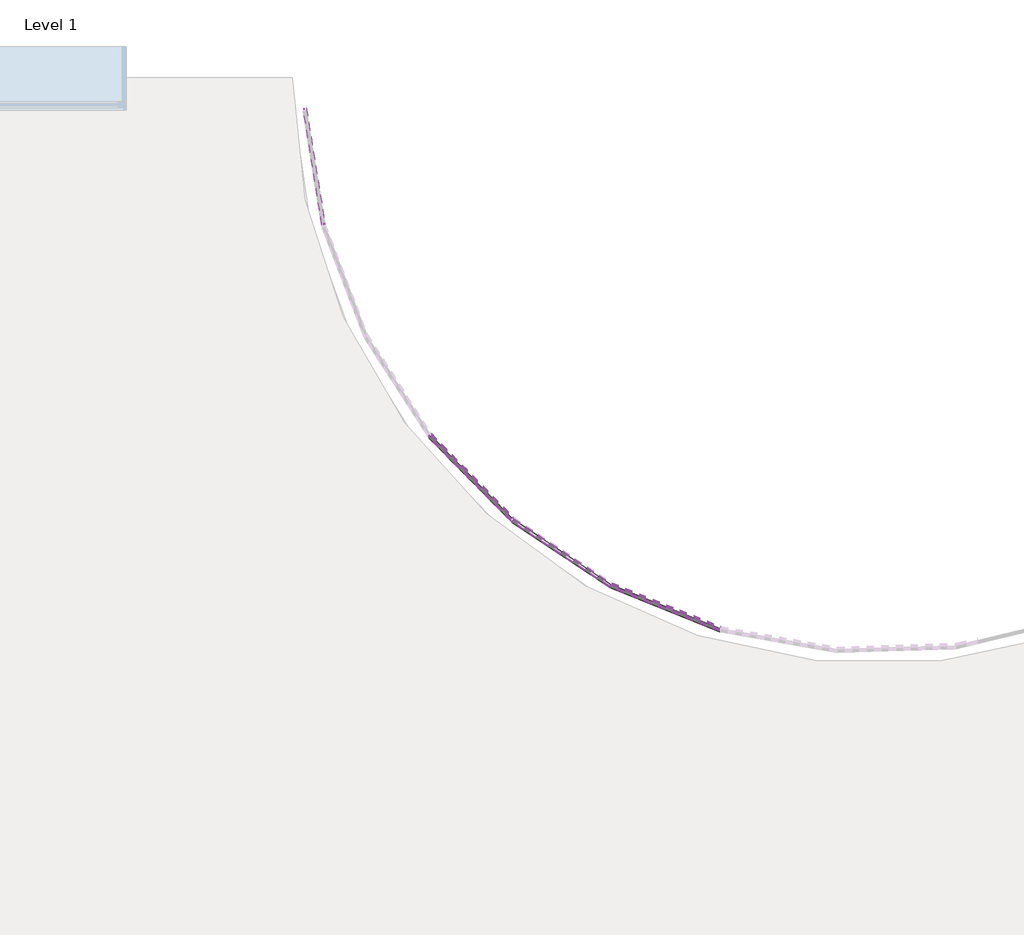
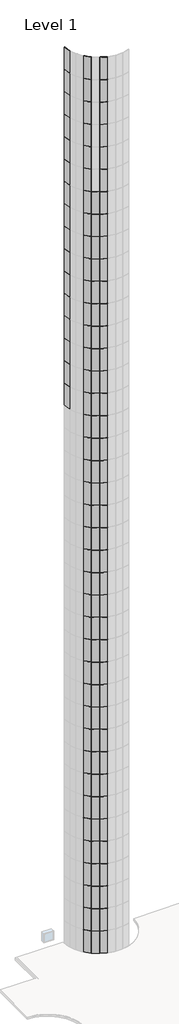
# One storey, part 16 of 19: 130 plates.
"""IFC4 building model written with IfcOpenShell, lengths in millimetres."""

from ifc_helpers import new_model, si_unit, origin, place, context, project, spatial, transform, mapped, element, save
from components import system_panel_glazed_d77d1ebf

model = new_model("IFC4")

# Units and contexts
model_context = context("Model", 3, world=origin())
ifc_project = project(units=[si_unit("LENGTHUNIT", "METRE", prefix="MILLI")], contexts=[model_context])

# Site, building, storey
site = spatial("IfcSite", under=ifc_project)
building = spatial("IfcBuilding", under=site)
storey = spatial("IfcBuildingStorey", under=building, Name="Level 1", Elevation=0.0)

# Plates
placement = place(None, origin())
system_panel_glazed_shape = system_panel_glazed_d77d1ebf(model_context)
element("IfcPlate", 1, ObjectType="System Panel : Glazed", at=placement, inside=storey, context=model_context, shape_type="MappedRepresentation", body=[
    mapped(system_panel_glazed_shape, transform((-850.898382, 8349.4333414, 73152.0), x_axis=(0.15870983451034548, -0.9873252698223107, 0.0), y_axis=(0.9873252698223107, 0.15870983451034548, 0.0), z_axis=(0.0, 0.0, 1.0))),
])
element("IfcPlate", 2, ObjectType="System Panel : Glazed", at=placement, inside=storey, context=model_context, shape_type="MappedRepresentation", body=[
    mapped(system_panel_glazed_shape, transform((-850.898382, 8349.4333414, 76200.0), x_axis=(0.15870983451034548, -0.9873252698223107, 0.0), y_axis=(0.9873252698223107, 0.15870983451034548, 0.0), z_axis=(0.0, 0.0, 1.0))),
])
element("IfcPlate", 3, ObjectType="System Panel : Glazed", at=placement, inside=storey, context=model_context, shape_type="MappedRepresentation", body=[
    mapped(system_panel_glazed_shape, transform((-850.898382, 8349.4333414, 79248.0), x_axis=(0.15870983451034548, -0.9873252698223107, 0.0), y_axis=(0.9873252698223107, 0.15870983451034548, 0.0), z_axis=(0.0, 0.0, 1.0))),
])
element("IfcPlate", 4, ObjectType="System Panel : Glazed", at=placement, inside=storey, context=model_context, shape_type="MappedRepresentation", body=[
    mapped(system_panel_glazed_shape, transform((-850.898382, 8349.4333414, 82296.0), x_axis=(0.15870983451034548, -0.9873252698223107, 0.0), y_axis=(0.9873252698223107, 0.15870983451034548, 0.0), z_axis=(0.0, 0.0, 1.0))),
])
element("IfcPlate", 5, ObjectType="System Panel : Glazed", at=placement, inside=storey, context=model_context, shape_type="MappedRepresentation", body=[
    mapped(system_panel_glazed_shape, transform((-850.898382, 8349.4333414, 85344.0), x_axis=(0.15870983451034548, -0.9873252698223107, 0.0), y_axis=(0.9873252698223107, 0.15870983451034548, 0.0), z_axis=(0.0, 0.0, 1.0))),
])
element("IfcPlate", 6, ObjectType="System Panel : Glazed", at=placement, inside=storey, context=model_context, shape_type="MappedRepresentation", body=[
    mapped(system_panel_glazed_shape, transform((-850.898382, 8349.4333414, 88392.0), x_axis=(0.15870983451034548, -0.9873252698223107, 0.0), y_axis=(0.9873252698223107, 0.15870983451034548, 0.0), z_axis=(0.0, 0.0, 1.0))),
])
element("IfcPlate", 7, ObjectType="System Panel : Glazed", at=placement, inside=storey, context=model_context, shape_type="MappedRepresentation", body=[
    mapped(system_panel_glazed_shape, transform((-850.898382, 8349.4333414, 91440.0), x_axis=(0.15870983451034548, -0.9873252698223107, 0.0), y_axis=(0.9873252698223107, 0.15870983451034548, 0.0), z_axis=(0.0, 0.0, 1.0))),
])
element("IfcPlate", 8, ObjectType="System Panel : Glazed", at=placement, inside=storey, context=model_context, shape_type="MappedRepresentation", body=[
    mapped(system_panel_glazed_shape, transform((-850.898382, 8349.4333414, 94488.0), x_axis=(0.15870983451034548, -0.9873252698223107, 0.0), y_axis=(0.9873252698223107, 0.15870983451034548, 0.0), z_axis=(0.0, 0.0, 1.0))),
])
element("IfcPlate", 9, ObjectType="System Panel : Glazed", at=placement, inside=storey, context=model_context, shape_type="MappedRepresentation", body=[
    mapped(system_panel_glazed_shape, transform((-850.898382, 8349.4333414, 97536.0), x_axis=(0.15870983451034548, -0.9873252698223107, 0.0), y_axis=(0.9873252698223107, 0.15870983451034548, 0.0), z_axis=(0.0, 0.0, 1.0))),
])
element("IfcPlate", 10, ObjectType="System Panel : Glazed", at=placement, inside=storey, context=model_context, shape_type="MappedRepresentation", body=[
    mapped(system_panel_glazed_shape, transform((-850.898382, 8349.4333414, 100584.0), x_axis=(0.15870983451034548, -0.9873252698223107, 0.0), y_axis=(0.9873252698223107, 0.15870983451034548, 0.0), z_axis=(0.0, 0.0, 1.0))),
])
element("IfcPlate", 11, ObjectType="System Panel : Glazed", at=placement, inside=storey, context=model_context, shape_type="MappedRepresentation", body=[
    mapped(system_panel_glazed_shape, transform((363.346166, 5948.8134773, 0.0), x_axis=(0.7012698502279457, -0.7128959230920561, 0.0), y_axis=(0.7128959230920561, 0.7012698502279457, 0.0), z_axis=(0.0, 0.0, 1.0))),
])
element("IfcPlate", 12, ObjectType="System Panel : Glazed", at=placement, inside=storey, context=model_context, shape_type="MappedRepresentation", body=[
    mapped(system_panel_glazed_shape, transform((363.346166, 5948.8134773, 3048.0), x_axis=(0.7012698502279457, -0.7128959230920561, 0.0), y_axis=(0.7128959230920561, 0.7012698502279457, 0.0), z_axis=(0.0, 0.0, 1.0))),
])
element("IfcPlate", 13, ObjectType="System Panel : Glazed", at=placement, inside=storey, context=model_context, shape_type="MappedRepresentation", body=[
    mapped(system_panel_glazed_shape, transform((363.346166, 5948.8134773, 6096.0), x_axis=(0.7012698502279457, -0.7128959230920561, 0.0), y_axis=(0.7128959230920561, 0.7012698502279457, 0.0), z_axis=(0.0, 0.0, 1.0))),
])
element("IfcPlate", 14, ObjectType="System Panel : Glazed", at=placement, inside=storey, context=model_context, shape_type="MappedRepresentation", body=[
    mapped(system_panel_glazed_shape, transform((363.346166, 5948.8134773, 9144.0), x_axis=(0.7012698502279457, -0.7128959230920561, 0.0), y_axis=(0.7128959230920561, 0.7012698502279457, 0.0), z_axis=(0.0, 0.0, 1.0))),
])
element("IfcPlate", 15, ObjectType="System Panel : Glazed", at=placement, inside=storey, context=model_context, shape_type="MappedRepresentation", body=[
    mapped(system_panel_glazed_shape, transform((363.346166, 5948.8134773, 12192.0), x_axis=(0.7012698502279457, -0.7128959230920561, 0.0), y_axis=(0.7128959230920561, 0.7012698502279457, 0.0), z_axis=(0.0, 0.0, 1.0))),
])
element("IfcPlate", 16, ObjectType="System Panel : Glazed", at=placement, inside=storey, context=model_context, shape_type="MappedRepresentation", body=[
    mapped(system_panel_glazed_shape, transform((363.346166, 5948.8134773, 15240.0), x_axis=(0.7012698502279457, -0.7128959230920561, 0.0), y_axis=(0.7128959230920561, 0.7012698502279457, 0.0), z_axis=(0.0, 0.0, 1.0))),
])
element("IfcPlate", 17, ObjectType="System Panel : Glazed", at=placement, inside=storey, context=model_context, shape_type="MappedRepresentation", body=[
    mapped(system_panel_glazed_shape, transform((363.346166, 5948.8134773, 18288.0), x_axis=(0.7012698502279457, -0.7128959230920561, 0.0), y_axis=(0.7128959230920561, 0.7012698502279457, 0.0), z_axis=(0.0, 0.0, 1.0))),
])
element("IfcPlate", 18, ObjectType="System Panel : Glazed", at=placement, inside=storey, context=model_context, shape_type="MappedRepresentation", body=[
    mapped(system_panel_glazed_shape, transform((363.346166, 5948.8134773, 21336.0), x_axis=(0.7012698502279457, -0.7128959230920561, 0.0), y_axis=(0.7128959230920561, 0.7012698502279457, 0.0), z_axis=(0.0, 0.0, 1.0))),
])
element("IfcPlate", 19, ObjectType="System Panel : Glazed", at=placement, inside=storey, context=model_context, shape_type="MappedRepresentation", body=[
    mapped(system_panel_glazed_shape, transform((363.346166, 5948.8134773, 24384.0), x_axis=(0.7012698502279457, -0.7128959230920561, 0.0), y_axis=(0.7128959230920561, 0.7012698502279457, 0.0), z_axis=(0.0, 0.0, 1.0))),
])
element("IfcPlate", 20, ObjectType="System Panel : Glazed", at=placement, inside=storey, context=model_context, shape_type="MappedRepresentation", body=[
    mapped(system_panel_glazed_shape, transform((363.346166, 5948.8134773, 27432.0), x_axis=(0.7012698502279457, -0.7128959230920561, 0.0), y_axis=(0.7128959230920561, 0.7012698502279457, 0.0), z_axis=(0.0, 0.0, 1.0))),
])
element("IfcPlate", 21, ObjectType="System Panel : Glazed", at=placement, inside=storey, context=model_context, shape_type="MappedRepresentation", body=[
    mapped(system_panel_glazed_shape, transform((363.346166, 5948.8134773, 30480.0), x_axis=(0.7012698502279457, -0.7128959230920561, 0.0), y_axis=(0.7128959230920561, 0.7012698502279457, 0.0), z_axis=(0.0, 0.0, 1.0))),
])
element("IfcPlate", 22, ObjectType="System Panel : Glazed", at=placement, inside=storey, context=model_context, shape_type="MappedRepresentation", body=[
    mapped(system_panel_glazed_shape, transform((363.346166, 5948.8134773, 33528.0), x_axis=(0.7012698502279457, -0.7128959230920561, 0.0), y_axis=(0.7128959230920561, 0.7012698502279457, 0.0), z_axis=(0.0, 0.0, 1.0))),
])
element("IfcPlate", 23, ObjectType="System Panel : Glazed", at=placement, inside=storey, context=model_context, shape_type="MappedRepresentation", body=[
    mapped(system_panel_glazed_shape, transform((363.346166, 5948.8134773, 36576.0), x_axis=(0.7012698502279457, -0.7128959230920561, 0.0), y_axis=(0.7128959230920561, 0.7012698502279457, 0.0), z_axis=(0.0, 0.0, 1.0))),
])
element("IfcPlate", 24, ObjectType="System Panel : Glazed", at=placement, inside=storey, context=model_context, shape_type="MappedRepresentation", body=[
    mapped(system_panel_glazed_shape, transform((363.346166, 5948.8134773, 39624.0), x_axis=(0.7012698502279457, -0.7128959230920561, 0.0), y_axis=(0.7128959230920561, 0.7012698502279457, 0.0), z_axis=(0.0, 0.0, 1.0))),
])
element("IfcPlate", 25, ObjectType="System Panel : Glazed", at=placement, inside=storey, context=model_context, shape_type="MappedRepresentation", body=[
    mapped(system_panel_glazed_shape, transform((363.346166, 5948.8134773, 42672.0), x_axis=(0.7012698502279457, -0.7128959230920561, 0.0), y_axis=(0.7128959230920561, 0.7012698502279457, 0.0), z_axis=(0.0, 0.0, 1.0))),
])
element("IfcPlate", 26, ObjectType="System Panel : Glazed", at=placement, inside=storey, context=model_context, shape_type="MappedRepresentation", body=[
    mapped(system_panel_glazed_shape, transform((363.346166, 5948.8134773, 45720.0), x_axis=(0.7012698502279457, -0.7128959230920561, 0.0), y_axis=(0.7128959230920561, 0.7012698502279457, 0.0), z_axis=(0.0, 0.0, 1.0))),
])
element("IfcPlate", 27, ObjectType="System Panel : Glazed", at=placement, inside=storey, context=model_context, shape_type="MappedRepresentation", body=[
    mapped(system_panel_glazed_shape, transform((363.346166, 5948.8134773, 48768.0), x_axis=(0.7012698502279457, -0.7128959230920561, 0.0), y_axis=(0.7128959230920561, 0.7012698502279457, 0.0), z_axis=(0.0, 0.0, 1.0))),
])
element("IfcPlate", 28, ObjectType="System Panel : Glazed", at=placement, inside=storey, context=model_context, shape_type="MappedRepresentation", body=[
    mapped(system_panel_glazed_shape, transform((363.346166, 5948.8134773, 51816.0), x_axis=(0.7012698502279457, -0.7128959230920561, 0.0), y_axis=(0.7128959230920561, 0.7012698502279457, 0.0), z_axis=(0.0, 0.0, 1.0))),
])
element("IfcPlate", 29, ObjectType="System Panel : Glazed", at=placement, inside=storey, context=model_context, shape_type="MappedRepresentation", body=[
    mapped(system_panel_glazed_shape, transform((363.346166, 5948.8134773, 54864.0), x_axis=(0.7012698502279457, -0.7128959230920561, 0.0), y_axis=(0.7128959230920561, 0.7012698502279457, 0.0), z_axis=(0.0, 0.0, 1.0))),
])
element("IfcPlate", 30, ObjectType="System Panel : Glazed", at=placement, inside=storey, context=model_context, shape_type="MappedRepresentation", body=[
    mapped(system_panel_glazed_shape, transform((363.346166, 5948.8134773, 57912.0), x_axis=(0.7012698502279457, -0.7128959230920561, 0.0), y_axis=(0.7128959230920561, 0.7012698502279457, 0.0), z_axis=(0.0, 0.0, 1.0))),
])
element("IfcPlate", 31, ObjectType="System Panel : Glazed", at=placement, inside=storey, context=model_context, shape_type="MappedRepresentation", body=[
    mapped(system_panel_glazed_shape, transform((363.346166, 5948.8134773, 60960.0), x_axis=(0.7012698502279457, -0.7128959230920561, 0.0), y_axis=(0.7128959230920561, 0.7012698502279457, 0.0), z_axis=(0.0, 0.0, 1.0))),
])
element("IfcPlate", 32, ObjectType="System Panel : Glazed", at=placement, inside=storey, context=model_context, shape_type="MappedRepresentation", body=[
    mapped(system_panel_glazed_shape, transform((363.346166, 5948.8134773, 64008.0), x_axis=(0.7012698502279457, -0.7128959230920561, 0.0), y_axis=(0.7128959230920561, 0.7012698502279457, 0.0), z_axis=(0.0, 0.0, 1.0))),
])
element("IfcPlate", 33, ObjectType="System Panel : Glazed", at=placement, inside=storey, context=model_context, shape_type="MappedRepresentation", body=[
    mapped(system_panel_glazed_shape, transform((363.346166, 5948.8134773, 67056.0), x_axis=(0.7012698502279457, -0.7128959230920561, 0.0), y_axis=(0.7128959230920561, 0.7012698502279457, 0.0), z_axis=(0.0, 0.0, 1.0))),
])
element("IfcPlate", 34, ObjectType="System Panel : Glazed", at=placement, inside=storey, context=model_context, shape_type="MappedRepresentation", body=[
    mapped(system_panel_glazed_shape, transform((363.346166, 5948.8134773, 70104.0), x_axis=(0.7012698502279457, -0.7128959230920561, 0.0), y_axis=(0.7128959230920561, 0.7012698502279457, 0.0), z_axis=(0.0, 0.0, 1.0))),
])
element("IfcPlate", 35, ObjectType="System Panel : Glazed", at=placement, inside=storey, context=model_context, shape_type="MappedRepresentation", body=[
    mapped(system_panel_glazed_shape, transform((363.346166, 5948.8134773, 73152.0), x_axis=(0.7012698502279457, -0.7128959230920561, 0.0), y_axis=(0.7128959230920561, 0.7012698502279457, 0.0), z_axis=(0.0, 0.0, 1.0))),
])
element("IfcPlate", 36, ObjectType="System Panel : Glazed", at=placement, inside=storey, context=model_context, shape_type="MappedRepresentation", body=[
    mapped(system_panel_glazed_shape, transform((363.346166, 5948.8134773, 76200.0), x_axis=(0.7012698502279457, -0.7128959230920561, 0.0), y_axis=(0.7128959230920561, 0.7012698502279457, 0.0), z_axis=(0.0, 0.0, 1.0))),
])
element("IfcPlate", 37, ObjectType="System Panel : Glazed", at=placement, inside=storey, context=model_context, shape_type="MappedRepresentation", body=[
    mapped(system_panel_glazed_shape, transform((363.346166, 5948.8134773, 79248.0), x_axis=(0.7012698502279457, -0.7128959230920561, 0.0), y_axis=(0.7128959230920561, 0.7012698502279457, 0.0), z_axis=(0.0, 0.0, 1.0))),
])
element("IfcPlate", 38, ObjectType="System Panel : Glazed", at=placement, inside=storey, context=model_context, shape_type="MappedRepresentation", body=[
    mapped(system_panel_glazed_shape, transform((363.346166, 5948.8134773, 82296.0), x_axis=(0.7012698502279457, -0.7128959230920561, 0.0), y_axis=(0.7128959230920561, 0.7012698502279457, 0.0), z_axis=(0.0, 0.0, 1.0))),
])
element("IfcPlate", 39, ObjectType="System Panel : Glazed", at=placement, inside=storey, context=model_context, shape_type="MappedRepresentation", body=[
    mapped(system_panel_glazed_shape, transform((363.346166, 5948.8134773, 85344.0), x_axis=(0.7012698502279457, -0.7128959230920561, 0.0), y_axis=(0.7128959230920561, 0.7012698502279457, 0.0), z_axis=(0.0, 0.0, 1.0))),
])
element("IfcPlate", 40, ObjectType="System Panel : Glazed", at=placement, inside=storey, context=model_context, shape_type="MappedRepresentation", body=[
    mapped(system_panel_glazed_shape, transform((363.346166, 5948.8134773, 88392.0), x_axis=(0.7012698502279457, -0.7128959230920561, 0.0), y_axis=(0.7128959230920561, 0.7012698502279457, 0.0), z_axis=(0.0, 0.0, 1.0))),
])
element("IfcPlate", 41, ObjectType="System Panel : Glazed", at=placement, inside=storey, context=model_context, shape_type="MappedRepresentation", body=[
    mapped(system_panel_glazed_shape, transform((363.346166, 5948.8134773, 91440.0), x_axis=(0.7012698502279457, -0.7128959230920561, 0.0), y_axis=(0.7128959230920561, 0.7012698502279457, 0.0), z_axis=(0.0, 0.0, 1.0))),
])
element("IfcPlate", 42, ObjectType="System Panel : Glazed", at=placement, inside=storey, context=model_context, shape_type="MappedRepresentation", body=[
    mapped(system_panel_glazed_shape, transform((363.346166, 5948.8134773, 94488.0), x_axis=(0.7012698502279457, -0.7128959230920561, 0.0), y_axis=(0.7128959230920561, 0.7012698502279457, 0.0), z_axis=(0.0, 0.0, 1.0))),
])
element("IfcPlate", 43, ObjectType="System Panel : Glazed", at=placement, inside=storey, context=model_context, shape_type="MappedRepresentation", body=[
    mapped(system_panel_glazed_shape, transform((363.346166, 5948.8134773, 97536.0), x_axis=(0.7012698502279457, -0.7128959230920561, 0.0), y_axis=(0.7128959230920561, 0.7012698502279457, 0.0), z_axis=(0.0, 0.0, 1.0))),
])
element("IfcPlate", 44, ObjectType="System Panel : Glazed", at=placement, inside=storey, context=model_context, shape_type="MappedRepresentation", body=[
    mapped(system_panel_glazed_shape, transform((363.346166, 5948.8134773, 100584.0), x_axis=(0.7012698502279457, -0.7128959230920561, 0.0), y_axis=(0.7128959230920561, 0.7012698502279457, 0.0), z_axis=(0.0, 0.0, 1.0))),
])
element("IfcPlate", 45, ObjectType="System Panel : Glazed", at=placement, inside=storey, context=model_context, shape_type="MappedRepresentation", body=[
    mapped(system_panel_glazed_shape, transform((1064.4599049, 5369.3882255, 0.0), x_axis=(0.8322247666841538, -0.5544383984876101, 0.0), y_axis=(0.5544383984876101, 0.8322247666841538, 0.0), z_axis=(0.0, 0.0, 1.0))),
])
element("IfcPlate", 46, ObjectType="System Panel : Glazed", at=placement, inside=storey, context=model_context, shape_type="MappedRepresentation", body=[
    mapped(system_panel_glazed_shape, transform((1064.4599049, 5369.3882255, 3048.0), x_axis=(0.8322247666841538, -0.5544383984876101, 0.0), y_axis=(0.5544383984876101, 0.8322247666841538, 0.0), z_axis=(0.0, 0.0, 1.0))),
])
element("IfcPlate", 47, ObjectType="System Panel : Glazed", at=placement, inside=storey, context=model_context, shape_type="MappedRepresentation", body=[
    mapped(system_panel_glazed_shape, transform((1064.4599049, 5369.3882255, 6096.0), x_axis=(0.8322247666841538, -0.5544383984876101, 0.0), y_axis=(0.5544383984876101, 0.8322247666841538, 0.0), z_axis=(0.0, 0.0, 1.0))),
])
element("IfcPlate", 48, ObjectType="System Panel : Glazed", at=placement, inside=storey, context=model_context, shape_type="MappedRepresentation", body=[
    mapped(system_panel_glazed_shape, transform((1064.4599049, 5369.3882255, 9144.0), x_axis=(0.8322247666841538, -0.5544383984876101, 0.0), y_axis=(0.5544383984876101, 0.8322247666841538, 0.0), z_axis=(0.0, 0.0, 1.0))),
])
element("IfcPlate", 49, ObjectType="System Panel : Glazed", at=placement, inside=storey, context=model_context, shape_type="MappedRepresentation", body=[
    mapped(system_panel_glazed_shape, transform((1064.4599049, 5369.3882255, 12192.0), x_axis=(0.8322247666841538, -0.5544383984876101, 0.0), y_axis=(0.5544383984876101, 0.8322247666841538, 0.0), z_axis=(0.0, 0.0, 1.0))),
])
element("IfcPlate", 50, ObjectType="System Panel : Glazed", at=placement, inside=storey, context=model_context, shape_type="MappedRepresentation", body=[
    mapped(system_panel_glazed_shape, transform((1064.4599049, 5369.3882255, 15240.0), x_axis=(0.8322247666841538, -0.5544383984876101, 0.0), y_axis=(0.5544383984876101, 0.8322247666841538, 0.0), z_axis=(0.0, 0.0, 1.0))),
])
element("IfcPlate", 51, ObjectType="System Panel : Glazed", at=placement, inside=storey, context=model_context, shape_type="MappedRepresentation", body=[
    mapped(system_panel_glazed_shape, transform((1064.4599049, 5369.3882255, 18288.0), x_axis=(0.8322247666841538, -0.5544383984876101, 0.0), y_axis=(0.5544383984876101, 0.8322247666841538, 0.0), z_axis=(0.0, 0.0, 1.0))),
])
element("IfcPlate", 52, ObjectType="System Panel : Glazed", at=placement, inside=storey, context=model_context, shape_type="MappedRepresentation", body=[
    mapped(system_panel_glazed_shape, transform((1064.4599049, 5369.3882255, 21336.0), x_axis=(0.8322247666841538, -0.5544383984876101, 0.0), y_axis=(0.5544383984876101, 0.8322247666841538, 0.0), z_axis=(0.0, 0.0, 1.0))),
])
element("IfcPlate", 53, ObjectType="System Panel : Glazed", at=placement, inside=storey, context=model_context, shape_type="MappedRepresentation", body=[
    mapped(system_panel_glazed_shape, transform((1064.4599049, 5369.3882255, 24384.0), x_axis=(0.8322247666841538, -0.5544383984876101, 0.0), y_axis=(0.5544383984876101, 0.8322247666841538, 0.0), z_axis=(0.0, 0.0, 1.0))),
])
element("IfcPlate", 54, ObjectType="System Panel : Glazed", at=placement, inside=storey, context=model_context, shape_type="MappedRepresentation", body=[
    mapped(system_panel_glazed_shape, transform((1064.4599049, 5369.3882255, 27432.0), x_axis=(0.8322247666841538, -0.5544383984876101, 0.0), y_axis=(0.5544383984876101, 0.8322247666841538, 0.0), z_axis=(0.0, 0.0, 1.0))),
])
element("IfcPlate", 55, ObjectType="System Panel : Glazed", at=placement, inside=storey, context=model_context, shape_type="MappedRepresentation", body=[
    mapped(system_panel_glazed_shape, transform((1064.4599049, 5369.3882255, 30480.0), x_axis=(0.8322247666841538, -0.5544383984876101, 0.0), y_axis=(0.5544383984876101, 0.8322247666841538, 0.0), z_axis=(0.0, 0.0, 1.0))),
])
element("IfcPlate", 56, ObjectType="System Panel : Glazed", at=placement, inside=storey, context=model_context, shape_type="MappedRepresentation", body=[
    mapped(system_panel_glazed_shape, transform((1064.4599049, 5369.3882255, 33528.0), x_axis=(0.8322247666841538, -0.5544383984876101, 0.0), y_axis=(0.5544383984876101, 0.8322247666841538, 0.0), z_axis=(0.0, 0.0, 1.0))),
])
element("IfcPlate", 57, ObjectType="System Panel : Glazed", at=placement, inside=storey, context=model_context, shape_type="MappedRepresentation", body=[
    mapped(system_panel_glazed_shape, transform((1064.4599049, 5369.3882255, 36576.0), x_axis=(0.8322247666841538, -0.5544383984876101, 0.0), y_axis=(0.5544383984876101, 0.8322247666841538, 0.0), z_axis=(0.0, 0.0, 1.0))),
])
element("IfcPlate", 58, ObjectType="System Panel : Glazed", at=placement, inside=storey, context=model_context, shape_type="MappedRepresentation", body=[
    mapped(system_panel_glazed_shape, transform((1064.4599049, 5369.3882255, 39624.0), x_axis=(0.8322247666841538, -0.5544383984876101, 0.0), y_axis=(0.5544383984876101, 0.8322247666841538, 0.0), z_axis=(0.0, 0.0, 1.0))),
])
element("IfcPlate", 59, ObjectType="System Panel : Glazed", at=placement, inside=storey, context=model_context, shape_type="MappedRepresentation", body=[
    mapped(system_panel_glazed_shape, transform((1064.4599049, 5369.3882255, 42672.0), x_axis=(0.8322247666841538, -0.5544383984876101, 0.0), y_axis=(0.5544383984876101, 0.8322247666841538, 0.0), z_axis=(0.0, 0.0, 1.0))),
])
element("IfcPlate", 60, ObjectType="System Panel : Glazed", at=placement, inside=storey, context=model_context, shape_type="MappedRepresentation", body=[
    mapped(system_panel_glazed_shape, transform((1064.4599049, 5369.3882255, 45720.0), x_axis=(0.8322247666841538, -0.5544383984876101, 0.0), y_axis=(0.5544383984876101, 0.8322247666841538, 0.0), z_axis=(0.0, 0.0, 1.0))),
])
element("IfcPlate", 61, ObjectType="System Panel : Glazed", at=placement, inside=storey, context=model_context, shape_type="MappedRepresentation", body=[
    mapped(system_panel_glazed_shape, transform((1064.4599049, 5369.3882255, 48768.0), x_axis=(0.8322247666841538, -0.5544383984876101, 0.0), y_axis=(0.5544383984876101, 0.8322247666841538, 0.0), z_axis=(0.0, 0.0, 1.0))),
])
element("IfcPlate", 62, ObjectType="System Panel : Glazed", at=placement, inside=storey, context=model_context, shape_type="MappedRepresentation", body=[
    mapped(system_panel_glazed_shape, transform((1064.4599049, 5369.3882255, 51816.0), x_axis=(0.8322247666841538, -0.5544383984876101, 0.0), y_axis=(0.5544383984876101, 0.8322247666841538, 0.0), z_axis=(0.0, 0.0, 1.0))),
])
element("IfcPlate", 63, ObjectType="System Panel : Glazed", at=placement, inside=storey, context=model_context, shape_type="MappedRepresentation", body=[
    mapped(system_panel_glazed_shape, transform((1064.4599049, 5369.3882255, 54864.0), x_axis=(0.8322247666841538, -0.5544383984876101, 0.0), y_axis=(0.5544383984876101, 0.8322247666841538, 0.0), z_axis=(0.0, 0.0, 1.0))),
])
element("IfcPlate", 64, ObjectType="System Panel : Glazed", at=placement, inside=storey, context=model_context, shape_type="MappedRepresentation", body=[
    mapped(system_panel_glazed_shape, transform((1064.4599049, 5369.3882255, 57912.0), x_axis=(0.8322247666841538, -0.5544383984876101, 0.0), y_axis=(0.5544383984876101, 0.8322247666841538, 0.0), z_axis=(0.0, 0.0, 1.0))),
])
element("IfcPlate", 65, ObjectType="System Panel : Glazed", at=placement, inside=storey, context=model_context, shape_type="MappedRepresentation", body=[
    mapped(system_panel_glazed_shape, transform((1064.4599049, 5369.3882255, 60960.0), x_axis=(0.8322247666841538, -0.5544383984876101, 0.0), y_axis=(0.5544383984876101, 0.8322247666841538, 0.0), z_axis=(0.0, 0.0, 1.0))),
])
element("IfcPlate", 66, ObjectType="System Panel : Glazed", at=placement, inside=storey, context=model_context, shape_type="MappedRepresentation", body=[
    mapped(system_panel_glazed_shape, transform((1064.4599049, 5369.3882255, 64008.0), x_axis=(0.8322247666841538, -0.5544383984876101, 0.0), y_axis=(0.5544383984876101, 0.8322247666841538, 0.0), z_axis=(0.0, 0.0, 1.0))),
])
element("IfcPlate", 67, ObjectType="System Panel : Glazed", at=placement, inside=storey, context=model_context, shape_type="MappedRepresentation", body=[
    mapped(system_panel_glazed_shape, transform((1064.4599049, 5369.3882255, 67056.0), x_axis=(0.8322247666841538, -0.5544383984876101, 0.0), y_axis=(0.5544383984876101, 0.8322247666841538, 0.0), z_axis=(0.0, 0.0, 1.0))),
])
element("IfcPlate", 68, ObjectType="System Panel : Glazed", at=placement, inside=storey, context=model_context, shape_type="MappedRepresentation", body=[
    mapped(system_panel_glazed_shape, transform((1064.4599049, 5369.3882255, 70104.0), x_axis=(0.8322247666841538, -0.5544383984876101, 0.0), y_axis=(0.5544383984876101, 0.8322247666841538, 0.0), z_axis=(0.0, 0.0, 1.0))),
])
element("IfcPlate", 69, ObjectType="System Panel : Glazed", at=placement, inside=storey, context=model_context, shape_type="MappedRepresentation", body=[
    mapped(system_panel_glazed_shape, transform((1064.4599049, 5369.3882255, 73152.0), x_axis=(0.8322247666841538, -0.5544383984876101, 0.0), y_axis=(0.5544383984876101, 0.8322247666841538, 0.0), z_axis=(0.0, 0.0, 1.0))),
])
element("IfcPlate", 70, ObjectType="System Panel : Glazed", at=placement, inside=storey, context=model_context, shape_type="MappedRepresentation", body=[
    mapped(system_panel_glazed_shape, transform((1064.4599049, 5369.3882255, 76200.0), x_axis=(0.8322247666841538, -0.5544383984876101, 0.0), y_axis=(0.5544383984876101, 0.8322247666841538, 0.0), z_axis=(0.0, 0.0, 1.0))),
])
element("IfcPlate", 71, ObjectType="System Panel : Glazed", at=placement, inside=storey, context=model_context, shape_type="MappedRepresentation", body=[
    mapped(system_panel_glazed_shape, transform((1064.4599049, 5369.3882255, 79248.0), x_axis=(0.8322247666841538, -0.5544383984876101, 0.0), y_axis=(0.5544383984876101, 0.8322247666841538, 0.0), z_axis=(0.0, 0.0, 1.0))),
])
element("IfcPlate", 72, ObjectType="System Panel : Glazed", at=placement, inside=storey, context=model_context, shape_type="MappedRepresentation", body=[
    mapped(system_panel_glazed_shape, transform((1064.4599049, 5369.3882255, 82296.0), x_axis=(0.8322247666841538, -0.5544383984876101, 0.0), y_axis=(0.5544383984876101, 0.8322247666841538, 0.0), z_axis=(0.0, 0.0, 1.0))),
])
element("IfcPlate", 73, ObjectType="System Panel : Glazed", at=placement, inside=storey, context=model_context, shape_type="MappedRepresentation", body=[
    mapped(system_panel_glazed_shape, transform((1064.4599049, 5369.3882255, 85344.0), x_axis=(0.8322247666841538, -0.5544383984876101, 0.0), y_axis=(0.5544383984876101, 0.8322247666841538, 0.0), z_axis=(0.0, 0.0, 1.0))),
])
element("IfcPlate", 74, ObjectType="System Panel : Glazed", at=placement, inside=storey, context=model_context, shape_type="MappedRepresentation", body=[
    mapped(system_panel_glazed_shape, transform((1064.4599049, 5369.3882255, 88392.0), x_axis=(0.8322247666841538, -0.5544383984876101, 0.0), y_axis=(0.5544383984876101, 0.8322247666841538, 0.0), z_axis=(0.0, 0.0, 1.0))),
])
element("IfcPlate", 75, ObjectType="System Panel : Glazed", at=placement, inside=storey, context=model_context, shape_type="MappedRepresentation", body=[
    mapped(system_panel_glazed_shape, transform((1064.4599049, 5369.3882255, 91440.0), x_axis=(0.8322247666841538, -0.5544383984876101, 0.0), y_axis=(0.5544383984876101, 0.8322247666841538, 0.0), z_axis=(0.0, 0.0, 1.0))),
])
element("IfcPlate", 76, ObjectType="System Panel : Glazed", at=placement, inside=storey, context=model_context, shape_type="MappedRepresentation", body=[
    mapped(system_panel_glazed_shape, transform((1064.4599049, 5369.3882255, 94488.0), x_axis=(0.8322247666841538, -0.5544383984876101, 0.0), y_axis=(0.5544383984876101, 0.8322247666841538, 0.0), z_axis=(0.0, 0.0, 1.0))),
])
element("IfcPlate", 77, ObjectType="System Panel : Glazed", at=placement, inside=storey, context=model_context, shape_type="MappedRepresentation", body=[
    mapped(system_panel_glazed_shape, transform((1064.4599049, 5369.3882255, 97536.0), x_axis=(0.8322247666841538, -0.5544383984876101, 0.0), y_axis=(0.5544383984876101, 0.8322247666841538, 0.0), z_axis=(0.0, 0.0, 1.0))),
])
element("IfcPlate", 78, ObjectType="System Panel : Glazed", at=placement, inside=storey, context=model_context, shape_type="MappedRepresentation", body=[
    mapped(system_panel_glazed_shape, transform((1064.4599049, 5369.3882255, 100584.0), x_axis=(0.8322247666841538, -0.5544383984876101, 0.0), y_axis=(0.5544383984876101, 0.8322247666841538, 0.0), z_axis=(0.0, 0.0, 1.0))),
])
element("IfcPlate", 79, ObjectType="System Panel : Glazed", at=placement, inside=storey, context=model_context, shape_type="MappedRepresentation", body=[
    mapped(system_panel_glazed_shape, transform((1869.2399479, 4945.5684765, 0.0), x_axis=(0.9280115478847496, -0.37255142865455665, 0.0), y_axis=(0.37255142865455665, 0.9280115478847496, 0.0), z_axis=(0.0, 0.0, 1.0))),
])
element("IfcPlate", 80, ObjectType="System Panel : Glazed", at=placement, inside=storey, context=model_context, shape_type="MappedRepresentation", body=[
    mapped(system_panel_glazed_shape, transform((1869.2399479, 4945.5684765, 3048.0), x_axis=(0.9280115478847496, -0.37255142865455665, 0.0), y_axis=(0.37255142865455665, 0.9280115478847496, 0.0), z_axis=(0.0, 0.0, 1.0))),
])
element("IfcPlate", 81, ObjectType="System Panel : Glazed", at=placement, inside=storey, context=model_context, shape_type="MappedRepresentation", body=[
    mapped(system_panel_glazed_shape, transform((1869.2399479, 4945.5684765, 6096.0), x_axis=(0.9280115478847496, -0.37255142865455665, 0.0), y_axis=(0.37255142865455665, 0.9280115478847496, 0.0), z_axis=(0.0, 0.0, 1.0))),
])
element("IfcPlate", 82, ObjectType="System Panel : Glazed", at=placement, inside=storey, context=model_context, shape_type="MappedRepresentation", body=[
    mapped(system_panel_glazed_shape, transform((1869.2399479, 4945.5684765, 9144.0), x_axis=(0.9280115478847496, -0.37255142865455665, 0.0), y_axis=(0.37255142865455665, 0.9280115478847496, 0.0), z_axis=(0.0, 0.0, 1.0))),
])
element("IfcPlate", 83, ObjectType="System Panel : Glazed", at=placement, inside=storey, context=model_context, shape_type="MappedRepresentation", body=[
    mapped(system_panel_glazed_shape, transform((1869.2399479, 4945.5684765, 12192.0), x_axis=(0.9280115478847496, -0.37255142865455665, 0.0), y_axis=(0.37255142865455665, 0.9280115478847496, 0.0), z_axis=(0.0, 0.0, 1.0))),
])
element("IfcPlate", 84, ObjectType="System Panel : Glazed", at=placement, inside=storey, context=model_context, shape_type="MappedRepresentation", body=[
    mapped(system_panel_glazed_shape, transform((1869.2399479, 4945.5684765, 15240.0), x_axis=(0.9280115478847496, -0.37255142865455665, 0.0), y_axis=(0.37255142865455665, 0.9280115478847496, 0.0), z_axis=(0.0, 0.0, 1.0))),
])
element("IfcPlate", 85, ObjectType="System Panel : Glazed", at=placement, inside=storey, context=model_context, shape_type="MappedRepresentation", body=[
    mapped(system_panel_glazed_shape, transform((1869.2399479, 4945.5684765, 18288.0), x_axis=(0.9280115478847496, -0.3725514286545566, 0.0), y_axis=(0.3725514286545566, 0.9280115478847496, 0.0), z_axis=(0.0, 0.0, 1.0))),
])
element("IfcPlate", 86, ObjectType="System Panel : Glazed", at=placement, inside=storey, context=model_context, shape_type="MappedRepresentation", body=[
    mapped(system_panel_glazed_shape, transform((1869.2399479, 4945.5684765, 21336.0), x_axis=(0.9280115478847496, -0.37255142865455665, 0.0), y_axis=(0.37255142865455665, 0.9280115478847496, 0.0), z_axis=(0.0, 0.0, 1.0))),
])
element("IfcPlate", 87, ObjectType="System Panel : Glazed", at=placement, inside=storey, context=model_context, shape_type="MappedRepresentation", body=[
    mapped(system_panel_glazed_shape, transform((1869.2399479, 4945.5684765, 24384.0), x_axis=(0.9280115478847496, -0.37255142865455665, 0.0), y_axis=(0.37255142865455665, 0.9280115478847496, 0.0), z_axis=(0.0, 0.0, 1.0))),
])
element("IfcPlate", 88, ObjectType="System Panel : Glazed", at=placement, inside=storey, context=model_context, shape_type="MappedRepresentation", body=[
    mapped(system_panel_glazed_shape, transform((1869.2399479, 4945.5684765, 27432.0), x_axis=(0.9280115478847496, -0.37255142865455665, 0.0), y_axis=(0.37255142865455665, 0.9280115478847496, 0.0), z_axis=(0.0, 0.0, 1.0))),
])
element("IfcPlate", 89, ObjectType="System Panel : Glazed", at=placement, inside=storey, context=model_context, shape_type="MappedRepresentation", body=[
    mapped(system_panel_glazed_shape, transform((1869.2399479, 4945.5684765, 30480.0), x_axis=(0.9280115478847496, -0.37255142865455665, 0.0), y_axis=(0.37255142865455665, 0.9280115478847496, 0.0), z_axis=(0.0, 0.0, 1.0))),
])
element("IfcPlate", 90, ObjectType="System Panel : Glazed", at=placement, inside=storey, context=model_context, shape_type="MappedRepresentation", body=[
    mapped(system_panel_glazed_shape, transform((1869.2399479, 4945.5684765, 33528.0), x_axis=(0.9280115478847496, -0.37255142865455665, 0.0), y_axis=(0.37255142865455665, 0.9280115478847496, 0.0), z_axis=(0.0, 0.0, 1.0))),
])
element("IfcPlate", 91, ObjectType="System Panel : Glazed", at=placement, inside=storey, context=model_context, shape_type="MappedRepresentation", body=[
    mapped(system_panel_glazed_shape, transform((1869.2399479, 4945.5684765, 36576.0), x_axis=(0.9280115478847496, -0.37255142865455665, 0.0), y_axis=(0.37255142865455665, 0.9280115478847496, 0.0), z_axis=(0.0, 0.0, 1.0))),
])
element("IfcPlate", 92, ObjectType="System Panel : Glazed", at=placement, inside=storey, context=model_context, shape_type="MappedRepresentation", body=[
    mapped(system_panel_glazed_shape, transform((1869.2399479, 4945.5684765, 39624.0), x_axis=(0.9280115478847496, -0.37255142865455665, 0.0), y_axis=(0.37255142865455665, 0.9280115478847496, 0.0), z_axis=(0.0, 0.0, 1.0))),
])
element("IfcPlate", 93, ObjectType="System Panel : Glazed", at=placement, inside=storey, context=model_context, shape_type="MappedRepresentation", body=[
    mapped(system_panel_glazed_shape, transform((1869.2399479, 4945.5684765, 42672.0), x_axis=(0.9280115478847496, -0.37255142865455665, 0.0), y_axis=(0.37255142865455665, 0.9280115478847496, 0.0), z_axis=(0.0, 0.0, 1.0))),
])
element("IfcPlate", 94, ObjectType="System Panel : Glazed", at=placement, inside=storey, context=model_context, shape_type="MappedRepresentation", body=[
    mapped(system_panel_glazed_shape, transform((1869.2399479, 4945.5684765, 45720.0), x_axis=(0.9280115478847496, -0.37255142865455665, 0.0), y_axis=(0.37255142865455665, 0.9280115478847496, 0.0), z_axis=(0.0, 0.0, 1.0))),
])
element("IfcPlate", 95, ObjectType="System Panel : Glazed", at=placement, inside=storey, context=model_context, shape_type="MappedRepresentation", body=[
    mapped(system_panel_glazed_shape, transform((1869.2399479, 4945.5684765, 48768.0), x_axis=(0.9280115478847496, -0.37255142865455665, 0.0), y_axis=(0.37255142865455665, 0.9280115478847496, 0.0), z_axis=(0.0, 0.0, 1.0))),
])
element("IfcPlate", 96, ObjectType="System Panel : Glazed", at=placement, inside=storey, context=model_context, shape_type="MappedRepresentation", body=[
    mapped(system_panel_glazed_shape, transform((1869.2399479, 4945.5684765, 51816.0), x_axis=(0.9280115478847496, -0.37255142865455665, 0.0), y_axis=(0.37255142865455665, 0.9280115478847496, 0.0), z_axis=(0.0, 0.0, 1.0))),
])
element("IfcPlate", 97, ObjectType="System Panel : Glazed", at=placement, inside=storey, context=model_context, shape_type="MappedRepresentation", body=[
    mapped(system_panel_glazed_shape, transform((1869.2399479, 4945.5684765, 54864.0), x_axis=(0.9280115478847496, -0.37255142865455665, 0.0), y_axis=(0.37255142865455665, 0.9280115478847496, 0.0), z_axis=(0.0, 0.0, 1.0))),
])
element("IfcPlate", 98, ObjectType="System Panel : Glazed", at=placement, inside=storey, context=model_context, shape_type="MappedRepresentation", body=[
    mapped(system_panel_glazed_shape, transform((1869.2399479, 4945.5684765, 57912.0), x_axis=(0.9280115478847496, -0.37255142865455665, 0.0), y_axis=(0.37255142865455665, 0.9280115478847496, 0.0), z_axis=(0.0, 0.0, 1.0))),
])
element("IfcPlate", 99, ObjectType="System Panel : Glazed", at=placement, inside=storey, context=model_context, shape_type="MappedRepresentation", body=[
    mapped(system_panel_glazed_shape, transform((1869.2399479, 4945.5684765, 60960.0), x_axis=(0.9280115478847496, -0.37255142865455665, 0.0), y_axis=(0.37255142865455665, 0.9280115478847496, 0.0), z_axis=(0.0, 0.0, 1.0))),
])
element("IfcPlate", 100, ObjectType="System Panel : Glazed", at=placement, inside=storey, context=model_context, shape_type="MappedRepresentation", body=[
    mapped(system_panel_glazed_shape, transform((1869.2399479, 4945.5684765, 64008.0), x_axis=(0.9280115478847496, -0.37255142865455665, 0.0), y_axis=(0.37255142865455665, 0.9280115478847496, 0.0), z_axis=(0.0, 0.0, 1.0))),
])
element("IfcPlate", 101, ObjectType="System Panel : Glazed", at=placement, inside=storey, context=model_context, shape_type="MappedRepresentation", body=[
    mapped(system_panel_glazed_shape, transform((1869.2399479, 4945.5684765, 67056.0), x_axis=(0.9280115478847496, -0.37255142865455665, 0.0), y_axis=(0.37255142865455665, 0.9280115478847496, 0.0), z_axis=(0.0, 0.0, 1.0))),
])
element("IfcPlate", 102, ObjectType="System Panel : Glazed", at=placement, inside=storey, context=model_context, shape_type="MappedRepresentation", body=[
    mapped(system_panel_glazed_shape, transform((1869.2399479, 4945.5684765, 70104.0), x_axis=(0.9280115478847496, -0.37255142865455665, 0.0), y_axis=(0.37255142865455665, 0.9280115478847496, 0.0), z_axis=(0.0, 0.0, 1.0))),
])
element("IfcPlate", 103, ObjectType="System Panel : Glazed", at=placement, inside=storey, context=model_context, shape_type="MappedRepresentation", body=[
    mapped(system_panel_glazed_shape, transform((1869.2399479, 4945.5684765, 73152.0), x_axis=(0.9280115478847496, -0.37255142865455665, 0.0), y_axis=(0.37255142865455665, 0.9280115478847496, 0.0), z_axis=(0.0, 0.0, 1.0))),
])
element("IfcPlate", 104, ObjectType="System Panel : Glazed", at=placement, inside=storey, context=model_context, shape_type="MappedRepresentation", body=[
    mapped(system_panel_glazed_shape, transform((1869.2399479, 4945.5684765, 76200.0), x_axis=(0.9280115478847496, -0.37255142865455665, 0.0), y_axis=(0.37255142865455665, 0.9280115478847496, 0.0), z_axis=(0.0, 0.0, 1.0))),
])
element("IfcPlate", 105, ObjectType="System Panel : Glazed", at=placement, inside=storey, context=model_context, shape_type="MappedRepresentation", body=[
    mapped(system_panel_glazed_shape, transform((1869.2399479, 4945.5684765, 79248.0), x_axis=(0.9280115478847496, -0.37255142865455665, 0.0), y_axis=(0.37255142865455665, 0.9280115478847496, 0.0), z_axis=(0.0, 0.0, 1.0))),
])
element("IfcPlate", 106, ObjectType="System Panel : Glazed", at=placement, inside=storey, context=model_context, shape_type="MappedRepresentation", body=[
    mapped(system_panel_glazed_shape, transform((1869.2399479, 4945.5684765, 82296.0), x_axis=(0.9280115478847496, -0.37255142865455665, 0.0), y_axis=(0.37255142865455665, 0.9280115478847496, 0.0), z_axis=(0.0, 0.0, 1.0))),
])
element("IfcPlate", 107, ObjectType="System Panel : Glazed", at=placement, inside=storey, context=model_context, shape_type="MappedRepresentation", body=[
    mapped(system_panel_glazed_shape, transform((1869.2399479, 4945.5684765, 85344.0), x_axis=(0.9280115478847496, -0.37255142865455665, 0.0), y_axis=(0.37255142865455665, 0.9280115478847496, 0.0), z_axis=(0.0, 0.0, 1.0))),
])
element("IfcPlate", 108, ObjectType="System Panel : Glazed", at=placement, inside=storey, context=model_context, shape_type="MappedRepresentation", body=[
    mapped(system_panel_glazed_shape, transform((1869.2399479, 4945.5684765, 88392.0), x_axis=(0.9280115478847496, -0.37255142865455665, 0.0), y_axis=(0.37255142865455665, 0.9280115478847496, 0.0), z_axis=(0.0, 0.0, 1.0))),
])
element("IfcPlate", 109, ObjectType="System Panel : Glazed", at=placement, inside=storey, context=model_context, shape_type="MappedRepresentation", body=[
    mapped(system_panel_glazed_shape, transform((1869.2399479, 4945.5684765, 91440.0), x_axis=(0.9280115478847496, -0.37255142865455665, 0.0), y_axis=(0.37255142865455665, 0.9280115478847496, 0.0), z_axis=(0.0, 0.0, 1.0))),
])
element("IfcPlate", 110, ObjectType="System Panel : Glazed", at=placement, inside=storey, context=model_context, shape_type="MappedRepresentation", body=[
    mapped(system_panel_glazed_shape, transform((1869.2399479, 4945.5684765, 94488.0), x_axis=(0.9280115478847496, -0.37255142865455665, 0.0), y_axis=(0.37255142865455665, 0.9280115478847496, 0.0), z_axis=(0.0, 0.0, 1.0))),
])
element("IfcPlate", 111, ObjectType="System Panel : Glazed", at=placement, inside=storey, context=model_context, shape_type="MappedRepresentation", body=[
    mapped(system_panel_glazed_shape, transform((1869.2399479, 4945.5684765, 97536.0), x_axis=(0.9280115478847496, -0.37255142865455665, 0.0), y_axis=(0.37255142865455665, 0.9280115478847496, 0.0), z_axis=(0.0, 0.0, 1.0))),
])
element("IfcPlate", 112, ObjectType="System Panel : Glazed", at=placement, inside=storey, context=model_context, shape_type="MappedRepresentation", body=[
    mapped(system_panel_glazed_shape, transform((1869.2399479, 4945.5684765, 100584.0), x_axis=(0.9280115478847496, -0.37255142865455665, 0.0), y_axis=(0.37255142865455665, 0.9280115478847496, 0.0), z_axis=(0.0, 0.0, 1.0))),
])
element("IfcPlate", 113, ObjectType="System Panel : Glazed", at=placement, inside=storey, context=model_context, shape_type="MappedRepresentation", body=[
    mapped(system_panel_glazed_shape, transform((-850.898382, 8349.4333414, 103632.0), x_axis=(0.15870983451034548, -0.9873252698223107, 0.0), y_axis=(0.9873252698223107, 0.15870983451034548, 0.0), z_axis=(0.0, 0.0, 1.0))),
])
element("IfcPlate", 114, ObjectType="System Panel : Glazed", at=placement, inside=storey, context=model_context, shape_type="MappedRepresentation", body=[
    mapped(system_panel_glazed_shape, transform((363.346166, 5948.8134773, 103632.0), x_axis=(0.7012698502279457, -0.7128959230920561, 0.0), y_axis=(0.7128959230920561, 0.7012698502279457, 0.0), z_axis=(0.0, 0.0, 1.0))),
])
element("IfcPlate", 115, ObjectType="System Panel : Glazed", at=placement, inside=storey, context=model_context, shape_type="MappedRepresentation", body=[
    mapped(system_panel_glazed_shape, transform((1869.2399479, 4945.5684765, 103632.0), x_axis=(0.9280115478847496, -0.37255142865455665, 0.0), y_axis=(0.37255142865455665, 0.9280115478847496, 0.0), z_axis=(0.0, 0.0, 1.0))),
])
element("IfcPlate", 116, ObjectType="System Panel : Glazed", at=placement, inside=storey, context=model_context, shape_type="MappedRepresentation", body=[
    mapped(system_panel_glazed_shape, transform((-850.898382, 8349.4333414, 106680.0), x_axis=(0.15870983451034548, -0.9873252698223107, 0.0), y_axis=(0.9873252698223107, 0.15870983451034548, 0.0), z_axis=(0.0, 0.0, 1.0))),
])
element("IfcPlate", 117, ObjectType="System Panel : Glazed", at=placement, inside=storey, context=model_context, shape_type="MappedRepresentation", body=[
    mapped(system_panel_glazed_shape, transform((363.346166, 5948.8134773, 106680.0), x_axis=(0.7012698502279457, -0.7128959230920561, 0.0), y_axis=(0.7128959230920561, 0.7012698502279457, 0.0), z_axis=(0.0, 0.0, 1.0))),
])
element("IfcPlate", 118, ObjectType="System Panel : Glazed", at=placement, inside=storey, context=model_context, shape_type="MappedRepresentation", body=[
    mapped(system_panel_glazed_shape, transform((1869.2399479, 4945.5684765, 106680.0), x_axis=(0.9280115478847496, -0.37255142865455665, 0.0), y_axis=(0.37255142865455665, 0.9280115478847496, 0.0), z_axis=(0.0, 0.0, 1.0))),
])
element("IfcPlate", 119, ObjectType="System Panel : Glazed", at=placement, inside=storey, context=model_context, shape_type="MappedRepresentation", body=[
    mapped(system_panel_glazed_shape, transform((-850.898382, 8349.4333414, 109728.0), x_axis=(0.15870983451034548, -0.9873252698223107, 0.0), y_axis=(0.9873252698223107, 0.15870983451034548, 0.0), z_axis=(0.0, 0.0, 1.0))),
])
element("IfcPlate", 120, ObjectType="System Panel : Glazed", at=placement, inside=storey, context=model_context, shape_type="MappedRepresentation", body=[
    mapped(system_panel_glazed_shape, transform((363.346166, 5948.8134773, 109728.0), x_axis=(0.7012698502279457, -0.7128959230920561, 0.0), y_axis=(0.7128959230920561, 0.7012698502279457, 0.0), z_axis=(0.0, 0.0, 1.0))),
])
element("IfcPlate", 121, ObjectType="System Panel : Glazed", at=placement, inside=storey, context=model_context, shape_type="MappedRepresentation", body=[
    mapped(system_panel_glazed_shape, transform((1869.2399479, 4945.5684765, 109728.0), x_axis=(0.9280115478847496, -0.37255142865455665, 0.0), y_axis=(0.37255142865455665, 0.9280115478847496, 0.0), z_axis=(0.0, 0.0, 1.0))),
])
element("IfcPlate", 122, ObjectType="System Panel : Glazed", at=placement, inside=storey, context=model_context, shape_type="MappedRepresentation", body=[
    mapped(system_panel_glazed_shape, transform((-850.898382, 8349.4333414, 112776.0), x_axis=(0.15870983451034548, -0.9873252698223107, 0.0), y_axis=(0.9873252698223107, 0.15870983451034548, 0.0), z_axis=(0.0, 0.0, 1.0))),
])
element("IfcPlate", 123, ObjectType="System Panel : Glazed", at=placement, inside=storey, context=model_context, shape_type="MappedRepresentation", body=[
    mapped(system_panel_glazed_shape, transform((363.346166, 5948.8134773, 112776.0), x_axis=(0.7012698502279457, -0.7128959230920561, 0.0), y_axis=(0.7128959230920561, 0.7012698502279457, 0.0), z_axis=(0.0, 0.0, 1.0))),
])
element("IfcPlate", 124, ObjectType="System Panel : Glazed", at=placement, inside=storey, context=model_context, shape_type="MappedRepresentation", body=[
    mapped(system_panel_glazed_shape, transform((1869.2399479, 4945.5684765, 112776.0), x_axis=(0.9280115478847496, -0.37255142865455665, 0.0), y_axis=(0.37255142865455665, 0.9280115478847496, 0.0), z_axis=(0.0, 0.0, 1.0))),
])
element("IfcPlate", 125, ObjectType="System Panel : Glazed", at=placement, inside=storey, context=model_context, shape_type="MappedRepresentation", body=[
    mapped(system_panel_glazed_shape, transform((-850.898382, 8349.4333414, 115824.0), x_axis=(0.15870983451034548, -0.9873252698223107, 0.0), y_axis=(0.9873252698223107, 0.15870983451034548, 0.0), z_axis=(0.0, 0.0, 1.0))),
])
element("IfcPlate", 126, ObjectType="System Panel : Glazed", at=placement, inside=storey, context=model_context, shape_type="MappedRepresentation", body=[
    mapped(system_panel_glazed_shape, transform((363.346166, 5948.8134773, 115824.0), x_axis=(0.7012698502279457, -0.7128959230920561, 0.0), y_axis=(0.7128959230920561, 0.7012698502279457, 0.0), z_axis=(0.0, 0.0, 1.0))),
])
element("IfcPlate", 127, ObjectType="System Panel : Glazed", at=placement, inside=storey, context=model_context, shape_type="MappedRepresentation", body=[
    mapped(system_panel_glazed_shape, transform((1869.2399479, 4945.5684765, 115824.0), x_axis=(0.9280115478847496, -0.37255142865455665, 0.0), y_axis=(0.37255142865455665, 0.9280115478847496, 0.0), z_axis=(0.0, 0.0, 1.0))),
])
element("IfcPlate", 128, ObjectType="System Panel : Glazed", at=placement, inside=storey, context=model_context, shape_type="MappedRepresentation", body=[
    mapped(system_panel_glazed_shape, transform((-850.898382, 8349.4333414, 118872.0), x_axis=(0.15870983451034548, -0.9873252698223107, 0.0), y_axis=(0.9873252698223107, 0.15870983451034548, 0.0), z_axis=(0.0, 0.0, 1.0))),
])
element("IfcPlate", 129, ObjectType="System Panel : Glazed", at=placement, inside=storey, context=model_context, shape_type="MappedRepresentation", body=[
    mapped(system_panel_glazed_shape, transform((363.346166, 5948.8134773, 118872.0), x_axis=(0.7012698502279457, -0.7128959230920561, 0.0), y_axis=(0.7128959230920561, 0.7012698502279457, 0.0), z_axis=(0.0, 0.0, 1.0))),
])
element("IfcPlate", 130, ObjectType="System Panel : Glazed", at=placement, inside=storey, context=model_context, shape_type="MappedRepresentation", body=[
    mapped(system_panel_glazed_shape, transform((1869.2399479, 4945.5684765, 118872.0), x_axis=(0.9280115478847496, -0.37255142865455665, 0.0), y_axis=(0.37255142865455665, 0.9280115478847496, 0.0), z_axis=(0.0, 0.0, 1.0))),
])

save(model, "model.ifc")
